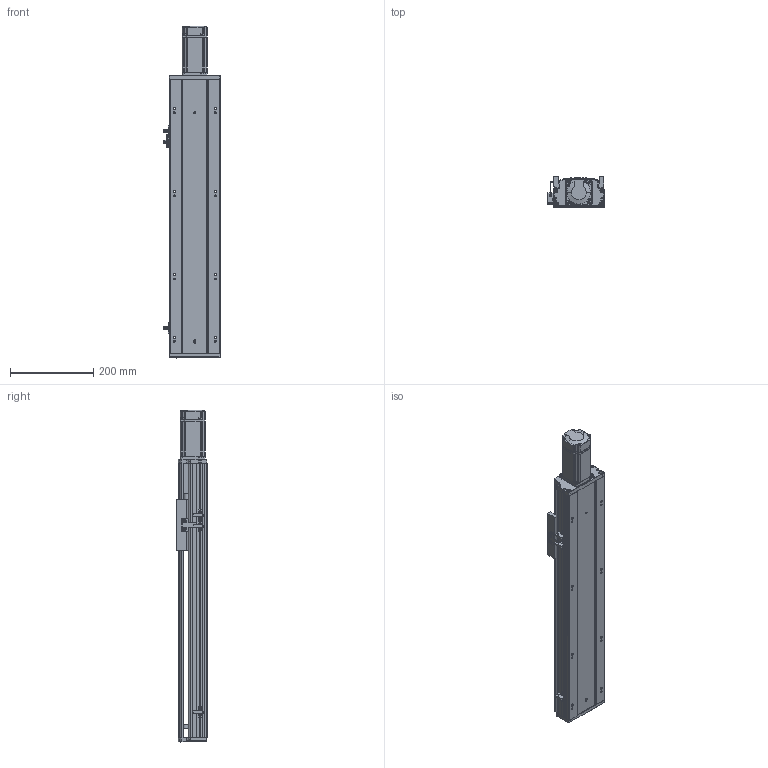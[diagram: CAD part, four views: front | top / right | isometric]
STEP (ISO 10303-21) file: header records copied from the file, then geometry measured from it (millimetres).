
FILE_DESCRIPTION (( 'STEP AP203' ), '1' );
FILE_NAME ('RY120Q-L1610-500-MK.SLDASM_0400.step', '2021-05-19T01:44:39', ( '盈信电脑' ), ( '东莞市道滘镇水果街19号' ), 'SwSTEP 2.0', 'SolidWorks 2016', '' );
FILE_SCHEMA (( 'CONFIG_CONTROL_DESIGN' ));
Length unit declared in the file: millimetre
Products named in the file (14): RY120QGB-1.8; 鞠褒坶踡蹟譫BK12 ; RY120Q-L1610-500-MK.SLDASM_0400; 滅袉蝶18-10; 侂狟400W侜督萇儂; RY120-500-MK倰第菁釱_0400; RY120铝滑块16丝杆（FK12）; RY120萇儂釱FK12; 滅袉蝶18-15; 15; 覜茼ん672; RY120綴裔啣; RY120外置感应片(140共用）; RY120-500-MK倰第奻裔啣_0400
Assembly tree (16 placements, depth 3):
  RY120Q-L1610-500-MK.SLDASM_0400
    RY120-500-MK倰第菁釱_0400
    RY120-500-MK倰第奻裔啣_0400
    侂狟400W侜督萇儂
      15
    鞠褒坶踡蹟譫BK12 
    RY120綴裔啣
    覜茼ん672  x3
    滅袉蝶18-10
    滅袉蝶18-15  x2
    RY120外置感应片(140共用）
    RY120QGB-1.8
    RY120铝滑块16丝杆（FK12）
    RY120萇儂釱FK12
Bounding box: 135.7 x 74 x 798.5 mm (x, y, z)
Volume: 2313040.7 mm3; surface area: 770962.2 mm2
Topology: 16 solids, 16 shells, 2108 faces, 5767 edges, 3686 vertices
Faces by surface type: plane 999, cylinder 791, cone 217, bspline 101
Entity records: 68737 total; most frequent: CARTESIAN_POINT 18921, ORIENTED_EDGE 10302, DIRECTION 9763, EDGE_CURVE 5151, VERTEX_POINT 3354, AXIS2_PLACEMENT_3D 3344, LINE 3075, VECTOR 3075
